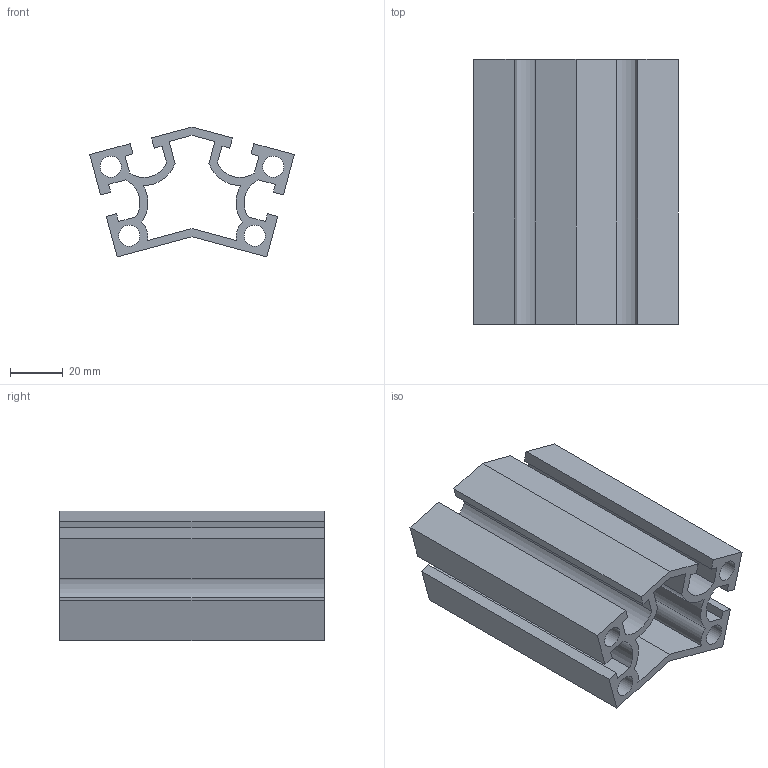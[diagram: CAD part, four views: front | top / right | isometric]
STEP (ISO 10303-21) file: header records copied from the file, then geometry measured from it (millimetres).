
FILE_DESCRIPTION(/* description */ ('Unknown'),/* implementation_level */ '2;1');
FILE_NAME(/* name */ 'NMW40150',/* time_stamp */ '2026-08-31T13:19:14+08:00',/* author */ ('Unknown'),/* organization */ ('Unknown'),/* preprocessor_version */ 'ST-DEVELOPER v16.7',/* originating_system */ 'DEX',/* authorisation */ $);
FILE_SCHEMA (('AUTOMOTIVE_DESIGN {1 0 10303 214 3 1 1}'));
Length unit declared in the file: millimetre
Products named in the file (1): NMW40150
Bounding box: 77.27 x 100 x 48.99 mm (x, y, z)
Volume: 96907.8 mm3; surface area: 62641.8 mm2
Topology: 1 solids, 1 shells, 56 faces, 162 edges, 108 vertices
Faces by surface type: plane 42, cylinder 14
Full cylindrical faces by diameter (mm): 8 x4
Entity records: 1864 total; most frequent: CARTESIAN_POINT 323, ORIENTED_EDGE 316, DIRECTION 300, EDGE_CURVE 158, LINE 130, VECTOR 130, VERTEX_POINT 108, AXIS2_PLACEMENT_3D 85
